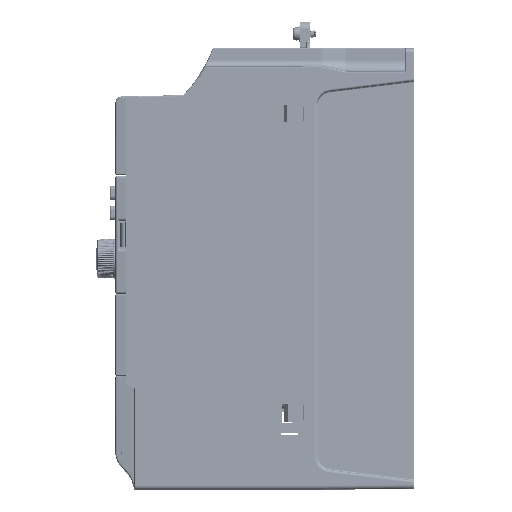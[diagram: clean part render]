
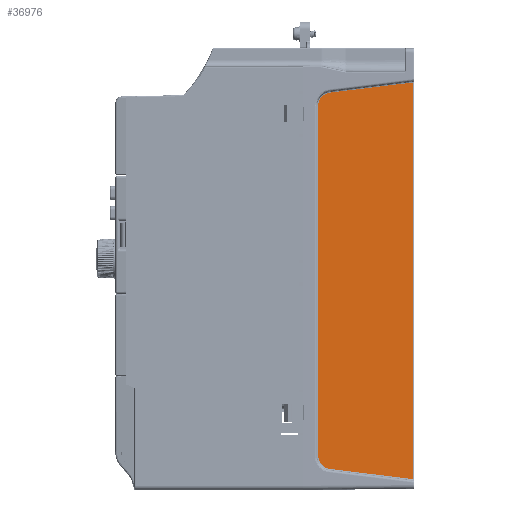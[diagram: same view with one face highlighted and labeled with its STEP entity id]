
A CAD part, left-side view. The second image highlights one B-rep face of the part: STEP entity #36976.
In plain terms, the highlighted planar face has unit normal (-1, -0.018, 0).
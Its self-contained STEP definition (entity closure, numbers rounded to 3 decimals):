
#11095=CARTESIAN_POINT('',(2.47,-3.303,
-0.304));
#11113=DIRECTION('',(0.,0.,1.));
#11114=VECTOR('',#11113,166.142);
#11115=CARTESIAN_POINT('',(2.47,-3.303,
-166.446));
#11116=LINE('',#11115,#11114);
#11121=DIRECTION('',(-0.017,0.992,0.122));
#11122=VECTOR('',#11121,35.25);
#11123=CARTESIAN_POINT('',(2.47,-3.303,
-166.446));
#11124=LINE('',#11123,#11122);
#11125=CARTESIAN_POINT('',(1.872,31.009,
-156.691));
#11126=DIRECTION('',(1.,0.018,0.));
#11127=DIRECTION('',(-0.002,0.122,-0.993));
#11128=AXIS2_PLACEMENT_3D('',#11125,#11126,#11127);
#11130=CARTESIAN_POINT('',(1.871,31.009,
-10.059));
#11131=DIRECTION('',(1.,0.017,0.));
#11132=DIRECTION('',(-0.017,1.,0.));
#11133=AXIS2_PLACEMENT_3D('',#11130,#11131,#11132);
#11135=DIRECTION('',(0.017,-0.992,0.122));
#11136=VECTOR('',#11135,35.25);
#11137=CARTESIAN_POINT('',(1.86,31.679,
-4.599));
#11138=LINE('',#11137,#11136);
#11289=DIRECTION('',(0.,0.,-1.));
#11290=VECTOR('',#11289,146.633);
#11291=CARTESIAN_POINT('',(1.775,36.509,
-10.058));
#11292=LINE('',#11291,#11290);
#18890=VERTEX_POINT('',#11095);
#18891=CARTESIAN_POINT('',(1.86,31.679,
-4.599));
#18892=VERTEX_POINT('',#18891);
#18893=CARTESIAN_POINT('',(2.47,-3.303,
-166.446));
#18894=VERTEX_POINT('',#18893);
#18895=CARTESIAN_POINT('',(1.86,31.679,
-162.151));
#18896=VERTEX_POINT('',#18895);
#18897=CARTESIAN_POINT('',(1.775,36.509,
-156.691));
#18898=VERTEX_POINT('',#18897);
#18899=CARTESIAN_POINT('',(1.775,36.509,
-10.058));
#18900=VERTEX_POINT('',#18899);
#36959=CARTESIAN_POINT('',(2.5,-5.,-170.807));
#36960=DIRECTION('',(-1.,-0.017,0.));
#36961=DIRECTION('',(0.,0.,-1.));
#36962=AXIS2_PLACEMENT_3D('',#36959,#36960,#36961);
#36963=PLANE('',#36962);
#36964=ORIENTED_EDGE('',*,*,#36950,.F.);
#36966=ORIENTED_EDGE('',*,*,#36965,.T.);
#36968=ORIENTED_EDGE('',*,*,#36967,.T.);
#36970=ORIENTED_EDGE('',*,*,#36969,.F.);
#36972=ORIENTED_EDGE('',*,*,#36971,.T.);
#36973=ORIENTED_EDGE('',*,*,#36864,.T.);
#36974=EDGE_LOOP('',(#36964,#36966,#36968,#36970,#36972,#36973));
#36975=FACE_OUTER_BOUND('',#36974,.F.);
#36976=ADVANCED_FACE('',(#36975),#36963,.T.);
#11129=CIRCLE('',#11128,5.5);
#11134=CIRCLE('',#11133,5.5);
#36864=EDGE_CURVE('',#18892,#18890,#11138,.T.);
#36950=EDGE_CURVE('',#18894,#18890,#11116,.T.);
#36965=EDGE_CURVE('',#18894,#18896,#11124,.T.);
#36967=EDGE_CURVE('',#18896,#18898,#11129,.T.);
#36969=EDGE_CURVE('',#18900,#18898,#11292,.T.);
#36971=EDGE_CURVE('',#18900,#18892,#11134,.T.);
